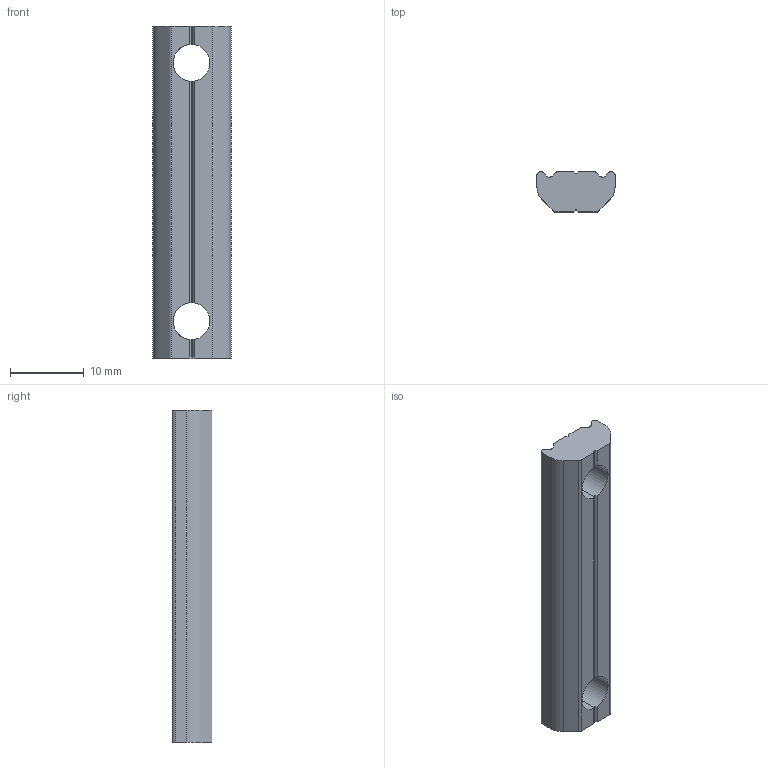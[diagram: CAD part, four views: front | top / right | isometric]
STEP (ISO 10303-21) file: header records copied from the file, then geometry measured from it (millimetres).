
FILE_DESCRIPTION (( 'STEP AP214' ), '1' );
FILE_NAME ('PTN-M5P35.STEP', '2019-10-30T02:29:12', ( '微软用户' ), ( '微软中国' ), 'SwSTEP 2.0', 'SolidWorks 2016', '' );
FILE_SCHEMA (( 'AUTOMOTIVE_DESIGN' ));
Length unit declared in the file: millimetre
Products named in the file (1): PTN-M5P35
Bounding box: 10.6 x 5.4 x 45 mm (x, y, z)
Volume: 2012.2 mm3; surface area: 1536.7 mm2
Topology: 1 solids, 1 shells, 52 faces, 154 edges, 100 vertices
Faces by surface type: plane 30, cylinder 22
Entity records: 1884 total; most frequent: CARTESIAN_POINT 485, ORIENTED_EDGE 308, DIRECTION 272, EDGE_CURVE 154, VERTEX_POINT 100, AXIS2_PLACEMENT_3D 91, VECTOR 90, LINE 90
